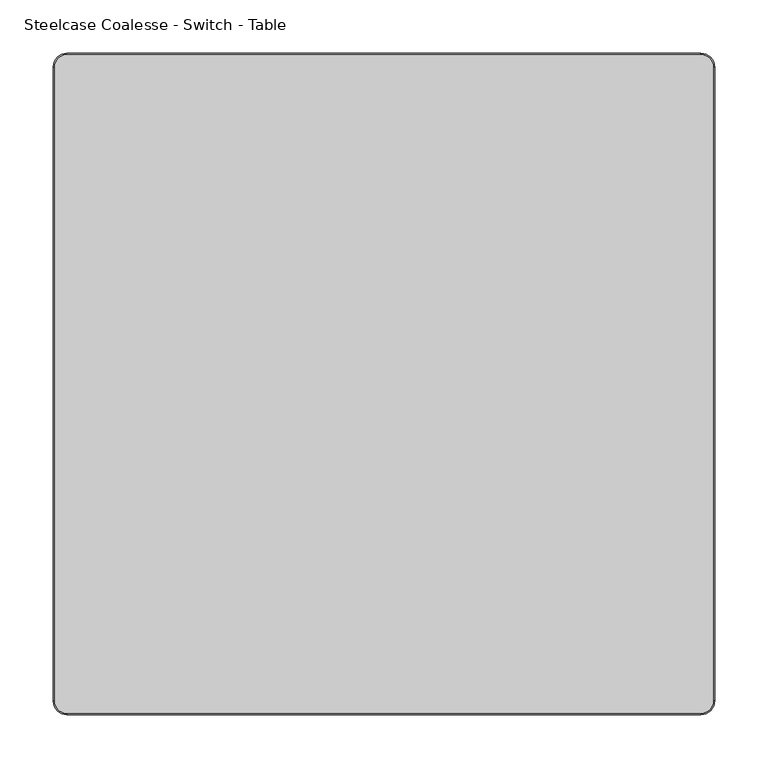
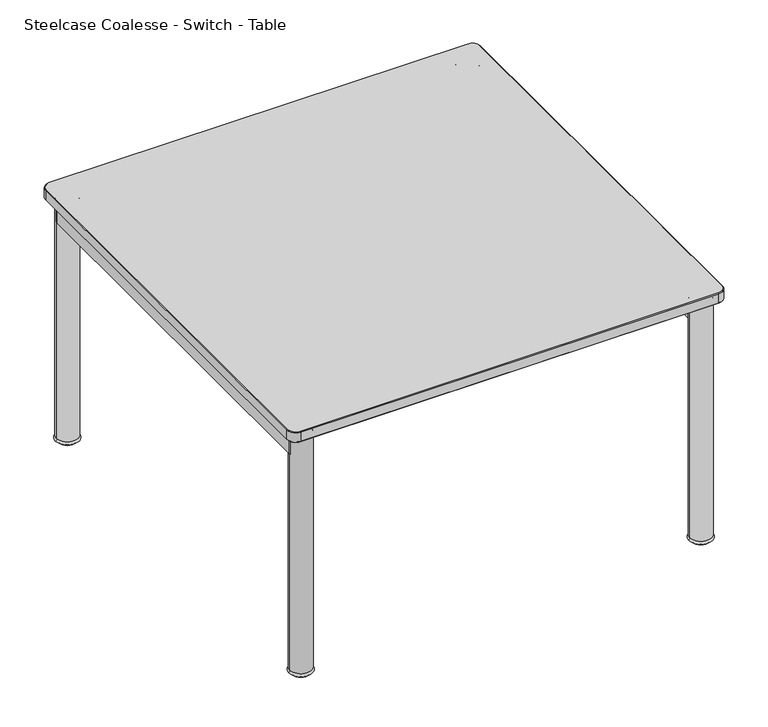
"""IFC4 building model written with IfcOpenShell, lengths in millimetres: furniture geometry, Steelcase Coalesse - Switch - Table : 24 3⁄8D x 24 3⁄8W."""

from ifc_helpers import new_model, si_unit, point, frame, frame_2d, origin, place, context, project, spatial, polyline, circle_curve, ellipse_curve, trimmed, segment, composite_curve, outline, extrude, source, transform, mapped, element, save
from ifc_brep_helpers import plane_surface, cylinder_surface, revolved_surface, advanced_brep


def steelcase_coalesse_switch_table_b2876d4c(model_context):
    return source(origin(), model_context, "Body", "SolidModel", [
        advanced_brep(
        [(12.4295179, -619.252, 377.2369545), (0.0, -606.8224821, 377.2369545), (0.0, -606.8224821, 363.6309536), (12.4295179, -619.252, 363.6309536), (606.4350835, -619.252, 363.6309536), (606.4350835, -619.252, 377.2369545), (619.252, -606.4350835, 363.6309536), (619.252, -606.4350835, 377.2369545), (619.252, -12.7743097, 363.6309536), (619.252, -12.7743097, 377.2369545), (606.4776903, 0.0, 363.6309536), (606.4776903, 0.0, 377.2369545), (12.5332952, 0.0, 363.6309536), (12.5332952, 0.0, 377.2369545), (0.0, -12.5332952, 363.6309536), (0.0, -12.5332952, 377.2369545), (1.1384964, -606.8224821, 378.3754509), (12.4295179, -618.1135036, 378.3754509), (606.4350835, -618.1135036, 378.3754509), (618.1135036, -606.4350835, 378.3754509), (618.1135036, -12.7743097, 378.3754509), (606.4776903, -1.1384964, 378.3754509), (12.5332952, -1.1384964, 378.3754509), (1.1384964, -12.5332952, 378.3754509), (12.4295179, -618.1135036, 362.4924572), (1.1384964, -606.8224821, 362.4924572), (1.1384964, -12.5332952, 362.4924572), (12.5332952, -1.1384964, 362.4924572), (606.4776903, -1.1384964, 362.4924572), (618.1135036, -12.7743097, 362.4924572), (618.1135036, -606.4350835, 362.4924572), (606.4350835, -618.1135036, 362.4924572)],
        [
            (0, 1, circle_curve(frame((12.4295179, -606.8224821, 377.2369545), z_axis=(0.0, 0.0, -1.0), x_axis=(-1.0, 0.0, 0.0)), 12.4295179)),
            (1, 2),
            (2, 3, circle_curve(frame((12.4295179, -606.8224821, 363.6309536), z_axis=(0.0, 0.0, 1.0), x_axis=(-1.0, 0.0, 0.0)), 12.4295179)),
            (3, 0),
            (3, 4),
            (4, 5),
            (5, 0),
            (4, 6, circle_curve(frame((606.4350835, -606.4350835, 363.6309536), z_axis=(0.0, 0.0, 1.0), x_axis=(0.0, -1.0, 0.0)), 12.8169165)),
            (6, 7),
            (7, 5, circle_curve(frame((606.4350835, -606.4350835, 377.2369545), z_axis=(0.0, 0.0, -1.0), x_axis=(0.0, -1.0, 0.0)), 12.8169165)),
            (6, 8),
            (8, 9),
            (9, 7),
            (8, 10, circle_curve(frame((606.4776903, -12.7743097, 363.6309536), z_axis=(0.0, 0.0, 1.0), x_axis=(1.0, 0.0, 0.0)), 12.7743097)),
            (10, 11),
            (11, 9, circle_curve(frame((606.4776903, -12.7743097, 377.2369545), z_axis=(0.0, 0.0, -1.0), x_axis=(1.0, 0.0, 0.0)), 12.7743097)),
            (10, 12),
            (12, 13),
            (13, 11),
            (12, 14, circle_curve(frame((12.5332952, -12.5332952, 363.6309536), z_axis=(0.0, 0.0, 1.0), x_axis=(0.0, 1.0, 0.0)), 12.5332952)),
            (14, 15),
            (15, 13, circle_curve(frame((12.5332952, -12.5332952, 377.2369545), z_axis=(0.0, 0.0, -1.0), x_axis=(0.0, 1.0, 0.0)), 12.5332952)),
            (1, 15),
            (14, 2),
            (16, 17, circle_curve(frame((12.4295179, -606.8224821, 378.3754509), z_axis=(0.0, 0.0, 1.0), x_axis=(-1.0, 0.0, 0.0)), 11.2910215)),
            (17, 18),
            (18, 19, circle_curve(frame((606.4350835, -606.4350835, 378.3754509), z_axis=(0.0, 0.0, 1.0), x_axis=(0.0, -1.0, 0.0)), 11.6784201)),
            (19, 20),
            (20, 21, circle_curve(frame((606.4776903, -12.7743097, 378.3754509), z_axis=(0.0, 0.0, 1.0), x_axis=(1.0, 0.0, 0.0)), 11.6358133)),
            (21, 22),
            (22, 23, circle_curve(frame((12.5332952, -12.5332952, 378.3754509), z_axis=(0.0, 0.0, 1.0), x_axis=(0.0, 1.0, 0.0)), 11.3947988)),
            (23, 16),
            (24, 25, circle_curve(frame((12.4295179, -606.8224821, 362.4924572), z_axis=(0.0, 0.0, -1.0), x_axis=(-1.0, 0.0, 0.0)), 11.2910215)),
            (25, 26),
            (26, 27, circle_curve(frame((12.5332952, -12.5332952, 362.4924572), z_axis=(0.0, 0.0, -1.0), x_axis=(0.0, 1.0, 0.0)), 11.3947988)),
            (27, 28),
            (28, 29, circle_curve(frame((606.4776903, -12.7743097, 362.4924572), z_axis=(0.0, 0.0, -1.0), x_axis=(1.0, 0.0, 0.0)), 11.6358133)),
            (29, 30),
            (30, 31, circle_curve(frame((606.4350835, -606.4350835, 362.4924572), z_axis=(0.0, 0.0, -1.0), x_axis=(0.0, -1.0, 0.0)), 11.6784201)),
            (31, 24),
            (2, 25),
            (24, 3),
            (0, 17),
            (16, 1),
            (31, 4),
            (5, 18),
            (30, 6),
            (7, 19),
            (29, 8),
            (9, 20),
            (28, 10),
            (11, 21),
            (27, 12),
            (13, 22),
            (26, 14),
            (15, 23),
        ],
        [
            cylinder_surface(frame((12.4295179, -606.8224821, 0.0), z_axis=(0.0, 0.0, 1.0), x_axis=(-1.0, 0.0, 0.0)), 12.4295179),
            plane_surface(frame((12.4295179, -619.252, 363.6309536), z_axis=(0.0, -1.0, 0.0), x_axis=(1.0, 0.0, 0.0))),
            cylinder_surface(frame((606.4350835, -606.4350835, 0.0), z_axis=(0.0, 0.0, 1.0), x_axis=(0.0, -1.0, 0.0)), 12.8169165),
            plane_surface(frame((619.252, -606.4350835, 363.6309536), z_axis=(1.0, 0.0, 0.0), x_axis=(0.0, 1.0, 0.0))),
            cylinder_surface(frame((606.4776903, -12.7743097, 0.0), z_axis=(0.0, 0.0, 1.0), x_axis=(1.0, 0.0, 0.0)), 12.7743097),
            plane_surface(frame((606.4776903, 0.0, 363.6309536), z_axis=(0.0, 1.0, 0.0), x_axis=(-1.0, 0.0, 0.0))),
            cylinder_surface(frame((12.5332952, -12.5332952, 0.0), z_axis=(0.0, 0.0, 1.0), x_axis=(0.0, 1.0, 0.0)), 12.5332952),
            plane_surface(frame((0.0, -12.5332952, 363.6309536), z_axis=(-1.0, 0.0, 0.0), x_axis=(0.0, -1.0, 0.0))),
            plane_surface(frame((23.7205393, -606.8224821, 378.3754509), z_axis=(0.0, 0.0, 1.0), x_axis=(0.0, 1.0, 0.0))),
            plane_surface(frame((23.7205393, -606.8224821, 362.4924572), z_axis=(0.0, 0.0, -1.0), x_axis=(0.0, -1.0, 0.0))),
            revolved_surface(polyline([(1.1384964, -606.8224821, 362.4924572), (0.0, -606.8224821, 363.6309536)]), (12.4295179, -606.8224821, 0.0), (0.0, 0.0, 1.0)),
            revolved_surface(polyline([(0.0, -606.8224821, 377.2369545), (1.1384964, -606.8224821, 378.3754509)]), (12.4295179, -606.8224821, 0.0), (0.0, 0.0, 1.0)),
            plane_surface(frame((12.4295179, -618.1135036, 362.4924572), z_axis=(0.0, -0.7071067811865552, -0.7071067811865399), x_axis=(1.0, 0.0, 0.0))),
            plane_surface(frame((12.4295179, -619.252, 377.2369545), z_axis=(0.0, -0.7071067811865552, 0.7071067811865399), x_axis=(1.0, 0.0, 0.0))),
            revolved_surface(polyline([(606.4350835, -618.1135036, 362.4924572), (606.4350835, -619.252, 363.6309536)]), (606.4350835, -606.4350835, 0.0), (0.0, 0.0, 1.0)),
            revolved_surface(polyline([(606.4350835, -619.252, 377.2369545), (606.4350835, -618.1135036, 378.3754509)]), (606.4350835, -606.4350835, 0.0), (0.0, 0.0, 1.0)),
            plane_surface(frame((618.1135036, -606.4350835, 362.4924572), z_axis=(0.7071067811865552, 0.0, -0.7071067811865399), x_axis=(0.0, 1.0, 0.0))),
            plane_surface(frame((619.252, -606.4350835, 377.2369545), z_axis=(0.7071067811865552, 0.0, 0.7071067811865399), x_axis=(0.0, 1.0, 0.0))),
            revolved_surface(polyline([(618.1135036, -12.7743097, 362.4924572), (619.252, -12.7743097, 363.6309536)]), (606.4776903, -12.7743097, 0.0), (0.0, 0.0, 1.0)),
            revolved_surface(polyline([(619.252, -12.7743097, 377.2369545), (618.1135036, -12.7743097, 378.3754509)]), (606.4776903, -12.7743097, 0.0), (0.0, 0.0, 1.0)),
            plane_surface(frame((606.4776903, -1.1384964, 362.4924572), z_axis=(0.0, 0.7071067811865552, -0.7071067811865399), x_axis=(-1.0, 0.0, 0.0))),
            plane_surface(frame((606.4776903, 0.0, 377.2369545), z_axis=(0.0, 0.7071067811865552, 0.7071067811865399), x_axis=(-1.0, 0.0, 0.0))),
            revolved_surface(polyline([(12.5332952, -1.1384964, 362.4924572), (12.5332952, 0.0, 363.6309536)]), (12.5332952, -12.5332952, 0.0), (0.0, 0.0, 1.0)),
            revolved_surface(polyline([(12.5332952, 0.0, 377.2369545), (12.5332952, -1.1384964, 378.3754509)]), (12.5332952, -12.5332952, 0.0), (0.0, 0.0, 1.0)),
            plane_surface(frame((1.1384964, -12.5332952, 362.4924572), z_axis=(-0.7071067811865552, 0.0, -0.7071067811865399), x_axis=(0.0, -1.0, 0.0))),
            plane_surface(frame((0.0, -12.5332952, 377.2369545), z_axis=(-0.7071067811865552, 0.0, 0.7071067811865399), x_axis=(0.0, -1.0, 0.0))),
        ],
        [
            (0, [[1, 2, 3, 4]]),
            (1, [[-4, 5, 6, 7]]),
            (2, [[-6, 8, 9, 10]]),
            (3, [[-9, 11, 12, 13]]),
            (4, [[-12, 14, 15, 16]]),
            (5, [[-15, 17, 18, 19]]),
            (6, [[-18, 20, 21, 22]]),
            (7, [[-2, 23, -21, 24]]),
            (8, [[25, 26, 27, 28, 29, 30, 31, 32]]),
            (9, [[33, 34, 35, 36, 37, 38, 39, 40]]),
            (10, [[-3, 41, -33, 42]]),
            (11, [[-1, 43, -25, 44]]),
            (12, [[-5, -42, -40, 45]]),
            (13, [[-7, 46, -26, -43]]),
            (14, [[-8, -45, -39, 47]]),
            (15, [[-10, 48, -27, -46]]),
            (16, [[-11, -47, -38, 49]]),
            (17, [[-13, 50, -28, -48]]),
            (18, [[-14, -49, -37, 51]]),
            (19, [[-16, 52, -29, -50]]),
            (20, [[-17, -51, -36, 53]]),
            (21, [[-19, 54, -30, -52]]),
            (22, [[-20, -53, -35, 55]]),
            (23, [[-22, 56, -31, -54]]),
            (24, [[-24, -55, -34, -41]]),
            (25, [[-23, -44, -32, -56]]),
        ],
    ),
        advanced_brep(
        [(582.097347, -597.1463726, 362.9951951), (606.1402462, -597.1463726, 362.9951951), (594.1187966, -597.1463726, 362.9951951), (578.5932492, -597.1463726, 359.4910973), (609.644344, -597.1463726, 359.4910973), (578.5932492, -597.1463726, 7.4855095), (609.644344, -597.1463726, 7.4855095), (582.8898445, -597.1463726, 7.4855095), (605.3477487, -597.1463726, 7.4855095), (577.3199682, -597.1463726, 3.6067942), (610.917625, -597.1463726, 3.6067942), (581.1939211, -597.1463726, 0.0), (607.0436721, -597.1463726, 0.0), (594.1187966, -597.1463726, 0.0)],
        [
            (0, 1, circle_curve(frame((594.1187966, -597.1463726, 362.9951951), z_axis=(0.0, 0.0, 1.0), x_axis=(1.0, 0.0, 0.0)), 12.0214496)),
            (1, 2),
            (2, 0),
            (1, 0, circle_curve(frame((594.1187966, -597.1463726, 362.9951951), z_axis=(0.0, 0.0, 1.0), x_axis=(1.0, 0.0, 0.0)), 12.0214496)),
            (3, 4, circle_curve(frame((594.1187966, -597.1463726, 359.4910973), z_axis=(0.0, 0.0, 1.0), x_axis=(1.0, 0.0, 0.0)), 15.5255474)),
            (4, 1, circle_curve(frame((606.1402462, -597.1463726, 359.4910973), z_axis=(0.0, -1.0, 0.0), x_axis=(1.0, 0.0, 0.0)), 3.5040978)),
            (0, 3, circle_curve(frame((582.097347, -597.1463726, 359.4910973), z_axis=(0.0, -1.0, 0.0), x_axis=(-1.0, 0.0, 0.0)), 3.5040978)),
            (4, 3, circle_curve(frame((594.1187966, -597.1463726, 359.4910973), z_axis=(0.0, 0.0, 1.0), x_axis=(1.0, 0.0, 0.0)), 15.5255474)),
            (5, 6, circle_curve(frame((594.1187966, -597.1463726, 7.4855095), z_axis=(0.0, 0.0, 1.0), x_axis=(1.0, 0.0, 0.0)), 15.5255474)),
            (6, 4),
            (3, 5),
            (6, 5, circle_curve(frame((594.1187966, -597.1463726, 7.4855095), z_axis=(0.0, 0.0, 1.0), x_axis=(1.0, 0.0, 0.0)), 15.5255474)),
            (7, 8, circle_curve(frame((594.1187966, -597.1463726, 7.4855095), z_axis=(0.0, 0.0, 1.0), x_axis=(1.0, 0.0, 0.0)), 11.2289521)),
            (8, 6),
            (5, 7),
            (8, 7, circle_curve(frame((594.1187966, -597.1463726, 7.4855095), z_axis=(0.0, 0.0, 1.0), x_axis=(1.0, 0.0, 0.0)), 11.2289521)),
            (9, 10, circle_curve(frame((594.1187966, -597.1463726, 3.6067942), z_axis=(0.0, 0.0, 1.0), x_axis=(1.0, 0.0, 0.0)), 16.7988284)),
            (10, 8),
            (7, 9),
            (10, 9, circle_curve(frame((594.1187966, -597.1463726, 3.6067942), z_axis=(0.0, 0.0, 1.0), x_axis=(1.0, 0.0, 0.0)), 16.7988284)),
            (11, 12, circle_curve(frame((594.1187966, -597.1463726, 0.0), z_axis=(0.0, 0.0, 1.0), x_axis=(1.0, 0.0, 0.0)), 12.9248755)),
            (12, 10),
            (9, 11),
            (12, 11, circle_curve(frame((594.1187966, -597.1463726, 0.0), z_axis=(0.0, 0.0, 1.0), x_axis=(1.0, 0.0, 0.0)), 12.9248755)),
            (13, 12),
            (11, 13),
        ],
        [
            plane_surface(frame((594.1187966, -597.1463726, 362.9951951), z_axis=(0.0, 0.0, 1.0), x_axis=(1.0, 0.0, 0.0))),
            revolved_surface(trimmed(ellipse_curve(frame((606.1402462, -597.1463726, 359.4910973), z_axis=(0.0, 1.0, 0.0), x_axis=(1.0, 0.0, 0.0)), 3.5040978, 3.5040978), [point((606.1402462, -597.1463726, 362.9951951))], [point((609.644344, -597.1463726, 359.4910973))], True, "CARTESIAN"), (594.1187966, -597.1463726, 362.9951951), (0.0, 0.0, -1.0)),
            cylinder_surface(frame((594.1187966, -597.1463726, 362.9951951), z_axis=(0.0, 0.0, -1.0), x_axis=(1.0, 0.0, 0.0)), 15.5255474),
            plane_surface(frame((594.1187966, -597.1463726, 7.4855095), z_axis=(0.0, 0.0, -1.0), x_axis=(1.0, 0.0, 0.0))),
            revolved_surface(polyline([(605.3477487, -597.1463726, 7.4855095), (610.917625, -597.1463726, 3.6067942)]), (594.1187966, -597.1463726, 362.9951951), (0.0, 0.0, -1.0)),
            revolved_surface(polyline([(610.917625, -597.1463726, 3.6067942), (607.0436721, -597.1463726, 0.0)]), (594.1187966, -597.1463726, 362.9951951), (0.0, 0.0, -1.0)),
            plane_surface(frame((594.1187966, -597.1463726, 0.0), z_axis=(0.0, 0.0, -1.0), x_axis=(1.0, 0.0, 0.0))),
        ],
        [
            (0, [[1, 2, 3]]),
            (0, [[4, -3, -2]]),
            (1, [[5, 6, -1, 7]]),
            (1, [[8, -7, -4, -6]]),
            (2, [[9, 10, -5, 11]]),
            (2, [[12, -11, -8, -10]]),
            (3, [[13, 14, -9, 15]]),
            (3, [[16, -15, -12, -14]]),
            (4, [[17, 18, -13, 19]]),
            (4, [[20, -19, -16, -18]]),
            (5, [[21, 22, -17, 23]]),
            (5, [[24, -23, -20, -22]]),
            (6, [[25, -21, 26]]),
            (6, [[-26, -24, -25]]),
        ],
    ),
        advanced_brep(
        [(25.1332034, -597.1463726, 362.9951951), (13.1117538, -597.1463726, 362.9951951), (37.154653, -597.1463726, 362.9951951), (9.607656, -597.1463726, 359.4910973), (40.6587508, -597.1463726, 359.4910973), (9.607656, -597.1463726, 7.4855095), (40.6587508, -597.1463726, 7.4855095), (13.9042513, -597.1463726, 7.4855095), (36.3621555, -597.1463726, 7.4855095), (8.334375, -597.1463726, 3.6067942), (41.9320318, -597.1463726, 3.6067942), (12.2083279, -597.1463726, 0.0), (38.0580789, -597.1463726, 0.0), (25.1332034, -597.1463726, 0.0)],
        [
            (0, 1),
            (1, 2, circle_curve(frame((25.1332034, -597.1463726, 362.9951951), z_axis=(0.0, 0.0, 1.0), x_axis=(-1.0, 0.0, 0.0)), 12.0214496)),
            (2, 0),
            (2, 1, circle_curve(frame((25.1332034, -597.1463726, 362.9951951), z_axis=(0.0, 0.0, 1.0), x_axis=(-1.0, 0.0, 0.0)), 12.0214496)),
            (1, 3, circle_curve(frame((13.1117538, -597.1463726, 359.4910973), z_axis=(0.0, -1.0, 0.0), x_axis=(1.0, 0.0, 0.0)), 3.5040978)),
            (3, 4, circle_curve(frame((25.1332034, -597.1463726, 359.4910973), z_axis=(0.0, 0.0, 1.0), x_axis=(-1.0, 0.0, 0.0)), 15.5255474)),
            (4, 2, circle_curve(frame((37.154653, -597.1463726, 359.4910973), z_axis=(0.0, -1.0, 0.0), x_axis=(-1.0, 0.0, 0.0)), 3.5040978)),
            (4, 3, circle_curve(frame((25.1332034, -597.1463726, 359.4910973), z_axis=(0.0, 0.0, 1.0), x_axis=(-1.0, 0.0, 0.0)), 15.5255474)),
            (3, 5),
            (5, 6, circle_curve(frame((25.1332034, -597.1463726, 7.4855095), z_axis=(0.0, 0.0, 1.0), x_axis=(-1.0, 0.0, 0.0)), 15.5255474)),
            (6, 4),
            (6, 5, circle_curve(frame((25.1332034, -597.1463726, 7.4855095), z_axis=(0.0, 0.0, 1.0), x_axis=(-1.0, 0.0, 0.0)), 15.5255474)),
            (5, 7),
            (7, 8, circle_curve(frame((25.1332034, -597.1463726, 7.4855095), z_axis=(0.0, 0.0, 1.0), x_axis=(-1.0, 0.0, 0.0)), 11.2289521)),
            (8, 6),
            (8, 7, circle_curve(frame((25.1332034, -597.1463726, 7.4855095), z_axis=(0.0, 0.0, 1.0), x_axis=(-1.0, 0.0, 0.0)), 11.2289521)),
            (7, 9),
            (9, 10, circle_curve(frame((25.1332034, -597.1463726, 3.6067942), z_axis=(0.0, 0.0, 1.0), x_axis=(-1.0, 0.0, 0.0)), 16.7988284)),
            (10, 8),
            (10, 9, circle_curve(frame((25.1332034, -597.1463726, 3.6067942), z_axis=(0.0, 0.0, 1.0), x_axis=(-1.0, 0.0, 0.0)), 16.7988284)),
            (9, 11),
            (11, 12, circle_curve(frame((25.1332034, -597.1463726, 0.0), z_axis=(0.0, 0.0, 1.0), x_axis=(-1.0, 0.0, 0.0)), 12.9248755)),
            (12, 10),
            (12, 11, circle_curve(frame((25.1332034, -597.1463726, 0.0), z_axis=(0.0, 0.0, 1.0), x_axis=(-1.0, 0.0, 0.0)), 12.9248755)),
            (11, 13),
            (13, 12),
        ],
        [
            plane_surface(frame((25.1332034, -597.1463726, 362.9951951), z_axis=(0.0, 0.0, 1.0), x_axis=(-1.0, 0.0, 0.0))),
            revolved_surface(trimmed(ellipse_curve(frame((13.1117538, -597.1463726, 359.4910973), z_axis=(0.0, 1.0, 0.0), x_axis=(1.0, 0.0, 0.0)), 3.5040978, 3.5040978), [point((9.607656, -597.1463726, 359.4910973))], [point((13.1117538, -597.1463726, 362.9951951))], True, "CARTESIAN"), (25.1332034, -597.1463726, 362.9951951), (0.0, 0.0, 1.0)),
            cylinder_surface(frame((25.1332034, -597.1463726, 362.9951951), z_axis=(0.0, 0.0, 1.0), x_axis=(-1.0, 0.0, 0.0)), 15.5255474),
            plane_surface(frame((25.1332034, -597.1463726, 7.4855095), z_axis=(0.0, 0.0, -1.0), x_axis=(-1.0, 0.0, 0.0))),
            revolved_surface(polyline([(8.334375, -597.1463726, 3.6067942), (13.9042513, -597.1463726, 7.4855095)]), (25.1332034, -597.1463726, 362.9951951), (0.0, 0.0, 1.0)),
            revolved_surface(polyline([(12.2083279, -597.1463726, 0.0), (8.334375, -597.1463726, 3.6067942)]), (25.1332034, -597.1463726, 362.9951951), (0.0, 0.0, 1.0)),
            plane_surface(frame((25.1332034, -597.1463726, 0.0), z_axis=(0.0, 0.0, -1.0), x_axis=(-1.0, 0.0, 0.0))),
        ],
        [
            (0, [[1, 2, 3]]),
            (0, [[-3, 4, -1]]),
            (1, [[-2, 5, 6, 7]]),
            (1, [[-4, -7, 8, -5]]),
            (2, [[-6, 9, 10, 11]]),
            (2, [[-8, -11, 12, -9]]),
            (3, [[-10, 13, 14, 15]]),
            (3, [[-12, -15, 16, -13]]),
            (4, [[-14, 17, 18, 19]]),
            (4, [[-16, -19, 20, -17]]),
            (5, [[-18, 21, 22, 23]]),
            (5, [[-20, -23, 24, -21]]),
            (6, [[-22, 25, 26]]),
            (6, [[-24, -26, -25]]),
        ],
    ),
        advanced_brep(
        [(594.1187966, -22.1056274, 362.9951951), (606.1402462, -22.1056274, 362.9951951), (582.097347, -22.1056274, 362.9951951), (609.644344, -22.1056274, 359.4910973), (578.5932492, -22.1056274, 359.4910973), (609.644344, -22.1056274, 7.4855095), (578.5932492, -22.1056274, 7.4855095), (605.3477487, -22.1056274, 7.4855095), (582.8898445, -22.1056274, 7.4855095), (610.917625, -22.1056274, 3.6067942), (577.3199682, -22.1056274, 3.6067942), (607.0436721, -22.1056274, 0.0), (581.1939211, -22.1056274, 0.0), (594.1187966, -22.1056274, 0.0)],
        [
            (0, 1),
            (1, 2, circle_curve(frame((594.1187966, -22.1056274, 362.9951951), z_axis=(0.0, 0.0, 1.0), x_axis=(1.0, 0.0, 0.0)), 12.0214496)),
            (2, 0),
            (2, 1, circle_curve(frame((594.1187966, -22.1056274, 362.9951951), z_axis=(0.0, 0.0, 1.0), x_axis=(1.0, 0.0, 0.0)), 12.0214496)),
            (1, 3, circle_curve(frame((606.1402462, -22.1056274, 359.4910973), z_axis=(0.0, 1.0, 0.0), x_axis=(-1.0, 0.0, 0.0)), 3.5040978)),
            (3, 4, circle_curve(frame((594.1187966, -22.1056274, 359.4910973), z_axis=(0.0, 0.0, 1.0), x_axis=(1.0, 0.0, 0.0)), 15.5255474)),
            (4, 2, circle_curve(frame((582.097347, -22.1056274, 359.4910973), z_axis=(0.0, 1.0, 0.0), x_axis=(1.0, 0.0, 0.0)), 3.5040978)),
            (4, 3, circle_curve(frame((594.1187966, -22.1056274, 359.4910973), z_axis=(0.0, 0.0, 1.0), x_axis=(1.0, 0.0, 0.0)), 15.5255474)),
            (3, 5),
            (5, 6, circle_curve(frame((594.1187966, -22.1056274, 7.4855095), z_axis=(0.0, 0.0, 1.0), x_axis=(1.0, 0.0, 0.0)), 15.5255474)),
            (6, 4),
            (6, 5, circle_curve(frame((594.1187966, -22.1056274, 7.4855095), z_axis=(0.0, 0.0, 1.0), x_axis=(1.0, 0.0, 0.0)), 15.5255474)),
            (5, 7),
            (7, 8, circle_curve(frame((594.1187966, -22.1056274, 7.4855095), z_axis=(0.0, 0.0, 1.0), x_axis=(1.0, 0.0, 0.0)), 11.2289521)),
            (8, 6),
            (8, 7, circle_curve(frame((594.1187966, -22.1056274, 7.4855095), z_axis=(0.0, 0.0, 1.0), x_axis=(1.0, 0.0, 0.0)), 11.2289521)),
            (7, 9),
            (9, 10, circle_curve(frame((594.1187966, -22.1056274, 3.6067942), z_axis=(0.0, 0.0, 1.0), x_axis=(1.0, 0.0, 0.0)), 16.7988284)),
            (10, 8),
            (10, 9, circle_curve(frame((594.1187966, -22.1056274, 3.6067942), z_axis=(0.0, 0.0, 1.0), x_axis=(1.0, 0.0, 0.0)), 16.7988284)),
            (9, 11),
            (11, 12, circle_curve(frame((594.1187966, -22.1056274, 0.0), z_axis=(0.0, 0.0, 1.0), x_axis=(1.0, 0.0, 0.0)), 12.9248755)),
            (12, 10),
            (12, 11, circle_curve(frame((594.1187966, -22.1056274, 0.0), z_axis=(0.0, 0.0, 1.0), x_axis=(1.0, 0.0, 0.0)), 12.9248755)),
            (11, 13),
            (13, 12),
        ],
        [
            plane_surface(frame((594.1187966, -22.1056274, 362.9951951), z_axis=(0.0, 0.0, 1.0), x_axis=(1.0, 0.0, 0.0))),
            revolved_surface(trimmed(ellipse_curve(frame((606.1402462, -22.1056274, 359.4910973), z_axis=(0.0, -1.0, 0.0), x_axis=(-1.0, 0.0, 0.0)), 3.5040978, 3.5040978), [point((609.644344, -22.1056274, 359.4910973))], [point((606.1402462, -22.1056274, 362.9951951))], True, "CARTESIAN"), (594.1187966, -22.1056274, 362.9951951), (0.0, 0.0, 1.0)),
            cylinder_surface(frame((594.1187966, -22.1056274, 362.9951951), z_axis=(0.0, 0.0, 1.0), x_axis=(1.0, 0.0, 0.0)), 15.5255474),
            plane_surface(frame((594.1187966, -22.1056274, 7.4855095), z_axis=(0.0, 0.0, -1.0), x_axis=(1.0, 0.0, 0.0))),
            revolved_surface(polyline([(610.917625, -22.1056274, 3.6067942), (605.3477487, -22.1056274, 7.4855095)]), (594.1187966, -22.1056274, 362.9951951), (0.0, 0.0, 1.0)),
            revolved_surface(polyline([(607.0436721, -22.1056274, 0.0), (610.917625, -22.1056274, 3.6067942)]), (594.1187966, -22.1056274, 362.9951951), (0.0, 0.0, 1.0)),
            plane_surface(frame((594.1187966, -22.1056274, 0.0), z_axis=(0.0, 0.0, -1.0), x_axis=(1.0, 0.0, 0.0))),
        ],
        [
            (0, [[1, 2, 3]]),
            (0, [[-3, 4, -1]]),
            (1, [[-2, 5, 6, 7]]),
            (1, [[-4, -7, 8, -5]]),
            (2, [[-6, 9, 10, 11]]),
            (2, [[-8, -11, 12, -9]]),
            (3, [[-10, 13, 14, 15]]),
            (3, [[-12, -15, 16, -13]]),
            (4, [[-14, 17, 18, 19]]),
            (4, [[-16, -19, 20, -17]]),
            (5, [[-18, 21, 22, 23]]),
            (5, [[-20, -23, 24, -21]]),
            (6, [[-22, 25, 26]]),
            (6, [[-24, -26, -25]]),
        ],
    ),
        advanced_brep(
        [(37.154653, -22.1056274, 362.9951951), (13.1117538, -22.1056274, 362.9951951), (25.1332034, -22.1056274, 362.9951951), (40.6587508, -22.1056274, 359.4910973), (9.607656, -22.1056274, 359.4910973), (40.6587508, -22.1056274, 7.4855095), (9.607656, -22.1056274, 7.4855095), (36.3621555, -22.1056274, 7.4855095), (13.9042513, -22.1056274, 7.4855095), (41.9320318, -22.1056274, 3.6067942), (8.334375, -22.1056274, 3.6067942), (38.0580789, -22.1056274, 0.0), (12.2083279, -22.1056274, 0.0), (25.1332034, -22.1056274, 0.0)],
        [
            (0, 1, circle_curve(frame((25.1332034, -22.1056274, 362.9951951), z_axis=(0.0, 0.0, 1.0), x_axis=(-1.0, 0.0, 0.0)), 12.0214496)),
            (1, 2),
            (2, 0),
            (1, 0, circle_curve(frame((25.1332034, -22.1056274, 362.9951951), z_axis=(0.0, 0.0, 1.0), x_axis=(-1.0, 0.0, 0.0)), 12.0214496)),
            (3, 4, circle_curve(frame((25.1332034, -22.1056274, 359.4910973), z_axis=(0.0, 0.0, 1.0), x_axis=(-1.0, 0.0, 0.0)), 15.5255474)),
            (4, 1, circle_curve(frame((13.1117538, -22.1056274, 359.4910973), z_axis=(0.0, 1.0, 0.0), x_axis=(1.0, 0.0, 0.0)), 3.5040978)),
            (0, 3, circle_curve(frame((37.154653, -22.1056274, 359.4910973), z_axis=(0.0, 1.0, 0.0), x_axis=(-1.0, 0.0, 0.0)), 3.5040978)),
            (4, 3, circle_curve(frame((25.1332034, -22.1056274, 359.4910973), z_axis=(0.0, 0.0, 1.0), x_axis=(-1.0, 0.0, 0.0)), 15.5255474)),
            (5, 6, circle_curve(frame((25.1332034, -22.1056274, 7.4855095), z_axis=(0.0, 0.0, 1.0), x_axis=(-1.0, 0.0, 0.0)), 15.5255474)),
            (6, 4),
            (3, 5),
            (6, 5, circle_curve(frame((25.1332034, -22.1056274, 7.4855095), z_axis=(0.0, 0.0, 1.0), x_axis=(-1.0, 0.0, 0.0)), 15.5255474)),
            (7, 8, circle_curve(frame((25.1332034, -22.1056274, 7.4855095), z_axis=(0.0, 0.0, 1.0), x_axis=(-1.0, 0.0, 0.0)), 11.2289521)),
            (8, 6),
            (5, 7),
            (8, 7, circle_curve(frame((25.1332034, -22.1056274, 7.4855095), z_axis=(0.0, 0.0, 1.0), x_axis=(-1.0, 0.0, 0.0)), 11.2289521)),
            (9, 10, circle_curve(frame((25.1332034, -22.1056274, 3.6067942), z_axis=(0.0, 0.0, 1.0), x_axis=(-1.0, 0.0, 0.0)), 16.7988284)),
            (10, 8),
            (7, 9),
            (10, 9, circle_curve(frame((25.1332034, -22.1056274, 3.6067942), z_axis=(0.0, 0.0, 1.0), x_axis=(-1.0, 0.0, 0.0)), 16.7988284)),
            (11, 12, circle_curve(frame((25.1332034, -22.1056274, 0.0), z_axis=(0.0, 0.0, 1.0), x_axis=(-1.0, 0.0, 0.0)), 12.9248755)),
            (12, 10),
            (9, 11),
            (12, 11, circle_curve(frame((25.1332034, -22.1056274, 0.0), z_axis=(0.0, 0.0, 1.0), x_axis=(-1.0, 0.0, 0.0)), 12.9248755)),
            (13, 12),
            (11, 13),
        ],
        [
            plane_surface(frame((25.1332034, -22.1056274, 362.9951951), z_axis=(0.0, 0.0, 1.0), x_axis=(-1.0, 0.0, 0.0))),
            revolved_surface(trimmed(ellipse_curve(frame((13.1117538, -22.1056274, 359.4910973), z_axis=(0.0, -1.0, 0.0), x_axis=(1.0, 0.0, 0.0)), 3.5040978, 3.5040978), [point((13.1117538, -22.1056274, 362.9951951))], [point((9.607656, -22.1056274, 359.4910973))], True, "CARTESIAN"), (25.1332034, -22.1056274, 362.9951951), (0.0, 0.0, -1.0)),
            cylinder_surface(frame((25.1332034, -22.1056274, 362.9951951), z_axis=(0.0, 0.0, -1.0), x_axis=(-1.0, 0.0, 0.0)), 15.5255474),
            plane_surface(frame((25.1332034, -22.1056274, 7.4855095), z_axis=(0.0, 0.0, -1.0), x_axis=(-1.0, 0.0, 0.0))),
            revolved_surface(polyline([(13.9042513, -22.1056274, 7.4855095), (8.334375, -22.1056274, 3.6067942)]), (25.1332034, -22.1056274, 362.9951951), (0.0, 0.0, -1.0)),
            revolved_surface(polyline([(8.334375, -22.1056274, 3.6067942), (12.2083279, -22.1056274, 0.0)]), (25.1332034, -22.1056274, 362.9951951), (0.0, 0.0, -1.0)),
            plane_surface(frame((25.1332034, -22.1056274, 0.0), z_axis=(0.0, 0.0, -1.0), x_axis=(-1.0, 0.0, 0.0))),
        ],
        [
            (0, [[1, 2, 3]]),
            (0, [[4, -3, -2]]),
            (1, [[5, 6, -1, 7]]),
            (1, [[8, -7, -4, -6]]),
            (2, [[9, 10, -5, 11]]),
            (2, [[12, -11, -8, -10]]),
            (3, [[13, 14, -9, 15]]),
            (3, [[16, -15, -12, -14]]),
            (4, [[17, 18, -13, 19]]),
            (4, [[20, -19, -16, -18]]),
            (5, [[21, 22, -17, 23]]),
            (5, [[24, -23, -20, -22]]),
            (6, [[25, -21, 26]]),
            (6, [[-26, -24, -25]]),
        ],
    ),
        extrude(outline(composite_curve([segment(trimmed(circle_curve(frame_2d((24.214752, -24.5419284)), 15.0271345), [point((9.1876175, -24.5419284))], [point((39.2418864, -24.5419284))], False, "CARTESIAN"), True, "CONTINUOUS"), segment(polyline([(39.2418864, -24.5419284), (39.2418864, -294.4812673), (580.0101136, -294.4812673), (580.0101136, -24.3028353)]), True, "CONTINUOUS"), segment(trimmed(circle_curve(frame_2d((595.037248, -24.3028353)), 15.0271345), [point((580.0101136, -24.3028353))], [point((610.0643825, -24.3028353))], False, "CARTESIAN"), True, "CONTINUOUS"), segment(polyline([(610.0643825, -24.3028353), (610.0643825, -595.4866188)]), True, "CONTINUOUS"), segment(trimmed(circle_curve(frame_2d((595.037248, -595.4866188)), 15.0271345), [point((610.0643825, -595.4866188))], [point((580.0101136, -595.4866188))], False, "CARTESIAN"), True, "CONTINUOUS"), segment(polyline([(580.0101136, -595.4866188), (580.0101136, -324.6437431), (39.2418864, -324.6437431), (39.2418864, -595.3635411)]), True, "CONTINUOUS"), segment(trimmed(circle_curve(frame_2d((24.214752, -595.3635411)), 15.0271345), [point((39.2418864, -595.3635411))], [point((9.1876175, -595.3635411))], False, "CARTESIAN"), True, "CONTINUOUS"), segment(polyline([(9.1876175, -595.3635411), (9.1876175, -24.5419284)]), True, "CONTINUOUS")], self_intersect=False)), frame((0.0, 0.0, 332.4399311), z_axis=(0.0, 0.0, 1.0), x_axis=(1.0, 0.0, 0.0)), (0.0, 0.0, 1.0), 30.0525261),
    ])


if __name__ == "__main__":
    model = new_model("IFC4")
    model_context = context("Model", 3, world=origin())
    ifc_project = project(units=[si_unit("LENGTHUNIT", "METRE", prefix="MILLI")], contexts=[model_context])
    site = spatial("IfcSite", under=ifc_project)
    building = spatial("IfcBuilding", under=site)
    placement = place(None, origin())
    steelcase_coalesse_switch_table_shape = steelcase_coalesse_switch_table_b2876d4c(model_context)
    element("IfcFurniture", 1, ObjectType="Steelcase Coalesse - Switch - Table : 24 3⁄8D x 24 3⁄8W", at=placement, inside=building, context=model_context, shape_type="MappedRepresentation", body=[
        mapped(steelcase_coalesse_switch_table_shape, transform((0.0, 0.0, 0.0), x_axis=(1.0, 0.0, 0.0), y_axis=(0.0, 1.0, 0.0), z_axis=(0.0, 0.0, 1.0))),
    ])
    save(model, "model.ifc")
